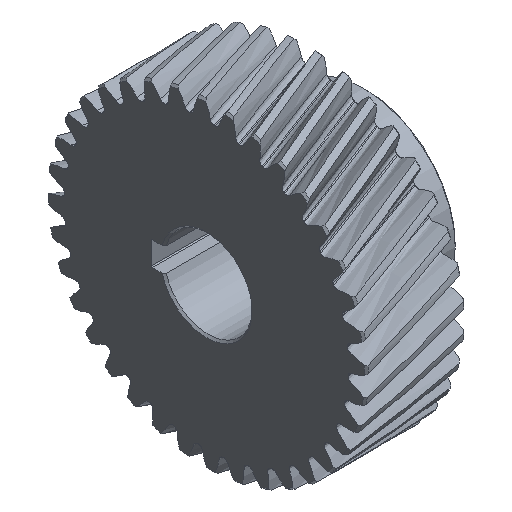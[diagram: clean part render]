
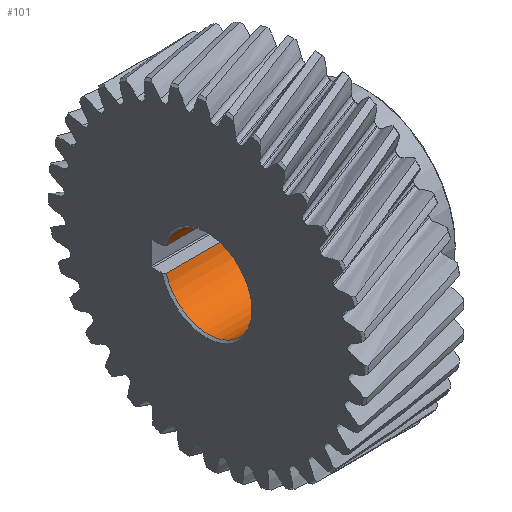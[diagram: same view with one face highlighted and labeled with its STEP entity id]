
A CAD part, isometric view. The second image highlights one B-rep face of the part: STEP entity #101.
In plain terms, the highlighted cylindrical face has radius 11 mm (diameter 22 mm), a partial arc.
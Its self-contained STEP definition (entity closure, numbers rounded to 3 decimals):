
#101=ADVANCED_FACE('',(#2843,#2845),#2847,.F.);
#2843=FACE_BOUND('',#2844,.T.);
#2844=EDGE_LOOP('',(#10378,#10379,#10380,#10381));
#2845=FACE_BOUND('',#2846,.T.);
#2846=EDGE_LOOP('',(#10382));
#2847=CYLINDRICAL_SURFACE('',#2848,11.);
#2848=AXIS2_PLACEMENT_3D('',#2849,#2850,#2851);
#2849=CARTESIAN_POINT('',(0.,0.,0.));
#2850=DIRECTION('',(1.,0.,0.));
#2851=DIRECTION('',(0.,-0.,1.));
#10378=ORIENTED_EDGE('',*,*,#12166,.T.);
#10379=ORIENTED_EDGE('',*,*,#12165,.F.);
#10380=ORIENTED_EDGE('',*,*,#12167,.T.);
#10381=ORIENTED_EDGE('',*,*,#12161,.F.);
#10382=ORIENTED_EDGE('',*,*,#12168,.T.);
#12161=EDGE_CURVE('',#13286,#13288,#13289,.T.);
#12165=EDGE_CURVE('',#13293,#13291,#13295,.F.);
#12166=EDGE_CURVE('',#13286,#13291,#13296,.T.);
#12167=EDGE_CURVE('',#13293,#13288,#13297,.F.);
#12168=EDGE_CURVE('',#13298,#13298,#13299,.T.);
#13286=VERTEX_POINT('',#15594);
#13288=VERTEX_POINT('',#15601);
#13289=CIRCLE('',#15602,11.);
#13291=VERTEX_POINT('',#15612);
#13293=VERTEX_POINT('',#15619);
#13295=CIRCLE('',#15626,11.);
#13296=LINE('',#15630,#15631);
#13297=LINE('',#15633,#15634);
#13298=VERTEX_POINT('',#15636);
#13299=B_SPLINE_CURVE_WITH_KNOTS('',3,
(#15637,#15638,#15639,#15640,#15641,#15642,#15643,#15644,#15645,#15646,#15647,#15648,
#15649,#15650,#15651,#15652,#15653,#15654,#15655,#15656,#15657,#15658,#15659,#15660,
#15661,#15662,#15663,#15664,#15665,#15666,#15667,#15668,#15669,#15670,#15671,#15672,
#15673,#15674,#15675,#15676,#15677,#15678,#15679,#15680,#15681,#15682,#15683,#15684,
#15685,#15686,#15687,#15688,#15689,#15690,#15691,#15692,#15693,#15694,#15695,#15696,
#15697,#15698,#15699,#15700,#15701,#15702,#15703,#15704),
.UNSPECIFIED.,.T.,.F.,
(4,1,1,1,1,1,1,1,1,1,1,1,1,1,1,1,1,1,1,1,1,1,1,1,1,1,1,1,1,1,1,1,1,1,1,1,1,1,1,1,
1,1,1,1,1,1,1,1,1,1,1,1,1,1,1,1,1,1,1,1,1,1,1,1,1,4),
(0.,0.009,0.018,0.027,0.041,
0.055,0.069,0.082,0.095,0.109,
0.125,0.141,0.158,0.176,0.194,
0.212,0.228,0.243,0.257,0.271,
0.285,0.298,0.312,0.332,0.353,
0.374,0.391,0.408,0.423,0.438,
0.453,0.467,0.479,0.491,0.504,
0.517,0.527,0.538,0.553,0.571,
0.589,0.604,0.618,0.634,0.651,
0.67,0.69,0.709,0.728,0.747,
0.764,0.781,0.796,0.81,0.828,
0.848,0.869,0.886,0.903,0.918,
0.932,0.948,0.962,0.975,0.986,
1.),
.UNSPECIFIED.);
#15594=CARTESIAN_POINT('',(0.5,10.583,3.));
#15601=CARTESIAN_POINT('',(0.5,10.583,-3.));
#15602=AXIS2_PLACEMENT_3D('',#15603,#15604,#15605);
#15603=CARTESIAN_POINT('',(0.5,0.,0.));
#15604=DIRECTION('',(1.,0.,0.));
#15605=DIRECTION('',(0.,0.962,0.273));
#15612=CARTESIAN_POINT('',(39.5,10.583,3.));
#15619=CARTESIAN_POINT('',(39.5,10.583,-3.));
#15626=AXIS2_PLACEMENT_3D('',#15627,#15628,#15629);
#15627=CARTESIAN_POINT('',(39.5,0.,0.));
#15628=DIRECTION('',(1.,0.,0.));
#15629=DIRECTION('',(0.,0.962,0.273));
#15630=CARTESIAN_POINT('',(0.5,10.583,3.));
#15631=VECTOR('',#15632,1.);
#15632=DIRECTION('',(1.,0.,0.));
#15633=CARTESIAN_POINT('',(0.5,10.583,-3.));
#15634=VECTOR('',#15635,1.);
#15635=DIRECTION('',(1.,0.,0.));
#15636=CARTESIAN_POINT('',(36.229,-5.5,-9.526));
#15637=CARTESIAN_POINT('',(36.229,-5.5,-9.526));
#15638=CARTESIAN_POINT('',(36.229,-5.537,-9.505));
#15639=CARTESIAN_POINT('',(36.227,-5.61,-9.462));
#15640=CARTESIAN_POINT('',(36.216,-5.72,-9.396));
#15641=CARTESIAN_POINT('',(36.195,-5.844,-9.32));
#15642=CARTESIAN_POINT('',(36.158,-5.984,-9.23));
#15643=CARTESIAN_POINT('',(36.1,-6.141,-9.127));
#15644=CARTESIAN_POINT('',(36.027,-6.289,-9.025));
#15645=CARTESIAN_POINT('',(35.941,-6.426,-8.928));
#15646=CARTESIAN_POINT('',(35.843,-6.554,-8.835));
#15647=CARTESIAN_POINT('',(35.724,-6.682,-8.738));
#15648=CARTESIAN_POINT('',(35.579,-6.811,-8.638));
#15649=CARTESIAN_POINT('',(35.409,-6.932,-8.541));
#15650=CARTESIAN_POINT('',(35.215,-7.042,-8.45));
#15651=CARTESIAN_POINT('',(35.001,-7.138,-8.37));
#15652=CARTESIAN_POINT('',(34.77,-7.215,-8.303));
#15653=CARTESIAN_POINT('',(34.535,-7.27,-8.255));
#15654=CARTESIAN_POINT('',(34.31,-7.302,-8.226));
#15655=CARTESIAN_POINT('',(34.098,-7.317,-8.214));
#15656=CARTESIAN_POINT('',(33.898,-7.317,-8.214));
#15657=CARTESIAN_POINT('',(33.705,-7.303,-8.226));
#15658=CARTESIAN_POINT('',(33.517,-7.278,-8.248));
#15659=CARTESIAN_POINT('',(33.332,-7.24,-8.281));
#15660=CARTESIAN_POINT('',(33.123,-7.182,-8.332));
#15661=CARTESIAN_POINT('',(32.893,-7.096,-8.406));
#15662=CARTESIAN_POINT('',(32.65,-6.971,-8.51));
#15663=CARTESIAN_POINT('',(32.442,-6.829,-8.624));
#15664=CARTESIAN_POINT('',(32.27,-6.677,-8.742));
#15665=CARTESIAN_POINT('',(32.135,-6.529,-8.853));
#15666=CARTESIAN_POINT('',(32.025,-6.377,-8.964));
#15667=CARTESIAN_POINT('',(31.935,-6.219,-9.074));
#15668=CARTESIAN_POINT('',(31.866,-6.058,-9.182));
#15669=CARTESIAN_POINT('',(31.818,-5.9,-9.285));
#15670=CARTESIAN_POINT('',(31.788,-5.751,-9.377));
#15671=CARTESIAN_POINT('',(31.772,-5.606,-9.465));
#15672=CARTESIAN_POINT('',(31.769,-5.455,-9.553));
#15673=CARTESIAN_POINT('',(31.78,-5.307,-9.635));
#15674=CARTESIAN_POINT('',(31.802,-5.165,-9.712));
#15675=CARTESIAN_POINT('',(31.838,-5.016,-9.79));
#15676=CARTESIAN_POINT('',(31.895,-4.842,-9.878));
#15677=CARTESIAN_POINT('',(31.984,-4.646,-9.972));
#15678=CARTESIAN_POINT('',(32.098,-4.455,-10.058));
#15679=CARTESIAN_POINT('',(32.225,-4.286,-10.131));
#15680=CARTESIAN_POINT('',(32.361,-4.135,-10.194));
#15681=CARTESIAN_POINT('',(32.518,-3.99,-10.251));
#15682=CARTESIAN_POINT('',(32.707,-3.847,-10.306));
#15683=CARTESIAN_POINT('',(32.928,-3.715,-10.354));
#15684=CARTESIAN_POINT('',(33.173,-3.603,-10.393));
#15685=CARTESIAN_POINT('',(33.432,-3.521,-10.421));
#15686=CARTESIAN_POINT('',(33.695,-3.471,-10.438));
#15687=CARTESIAN_POINT('',(33.95,-3.452,-10.444));
#15688=CARTESIAN_POINT('',(34.194,-3.46,-10.442));
#15689=CARTESIAN_POINT('',(34.42,-3.491,-10.431));
#15690=CARTESIAN_POINT('',(34.628,-3.54,-10.415));
#15691=CARTESIAN_POINT('',(34.839,-3.61,-10.391));
#15692=CARTESIAN_POINT('',(35.062,-3.709,-10.356));
#15693=CARTESIAN_POINT('',(35.298,-3.849,-10.305));
#15694=CARTESIAN_POINT('',(35.507,-4.01,-10.244));
#15695=CARTESIAN_POINT('',(35.683,-4.18,-10.175));
#15696=CARTESIAN_POINT('',(35.824,-4.347,-10.105));
#15697=CARTESIAN_POINT('',(35.94,-4.515,-10.031));
#15698=CARTESIAN_POINT('',(36.036,-4.688,-9.952));
#15699=CARTESIAN_POINT('',(36.112,-4.861,-9.868));
#15700=CARTESIAN_POINT('',(36.167,-5.032,-9.782));
#15701=CARTESIAN_POINT('',(36.202,-5.187,-9.7));
#15702=CARTESIAN_POINT('',(36.224,-5.342,-9.616));
#15703=CARTESIAN_POINT('',(36.229,-5.444,-9.558));
#15704=CARTESIAN_POINT('',(36.229,-5.5,-9.526));
